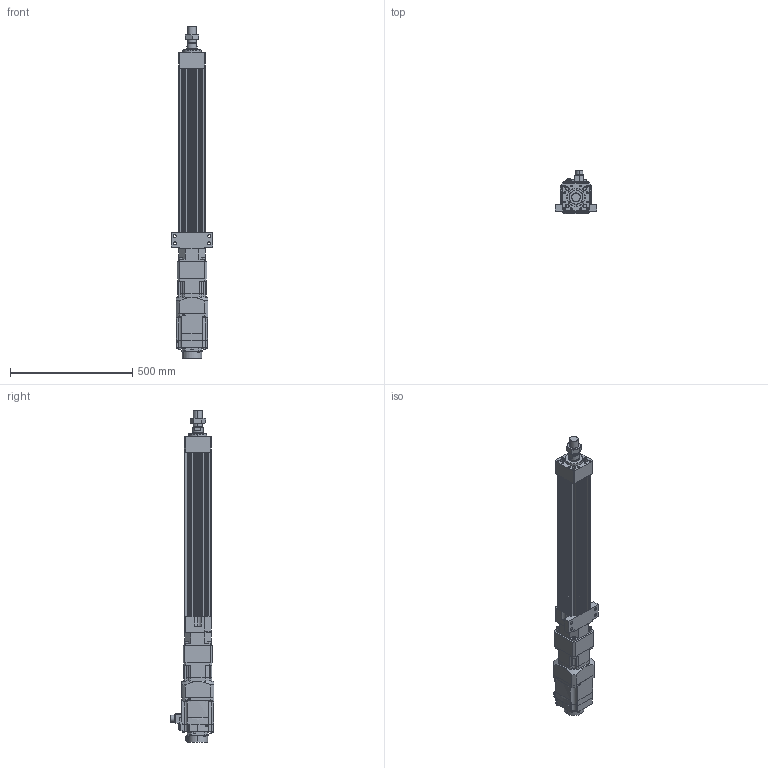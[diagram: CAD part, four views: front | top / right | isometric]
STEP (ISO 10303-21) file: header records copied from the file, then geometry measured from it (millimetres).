
FILE_DESCRIPTION (( 'STEP AP203' ), '1' );
FILE_NAME ('HES110NS(HS)-S500-W015G00-M-FFC.STEP', '2026-06-10T06:04:15', ( 'tms' ), ( '' ), 'SwSTEP 2.0', 'SolidWorks 2013', '' );
FILE_SCHEMA (( 'CONFIG_CONTROL_DESIGN' ));
Length unit declared in the file: millimetre
Products named in the file (8): M36X1.5P; HES110-M-ROD-500; HES110-FFC-500; AB1151; HES110NS(HS)-S500-W015G00-M-FFC; HES110-S-G120; AB1152; HG-SR152B
Assembly tree (7 placements, depth 2):
  HES110NS(HS)-S500-W015G00-M-FFC
    HES110-FFC-500
    HES110-M-ROD-500
    M36X1.5P
    HES110-S-G120
    AB1151
    AB1152
    HG-SR152B
Bounding box: 170 x 177.49 x 1356 mm (x, y, z)
Volume: 9068664.6 mm3; surface area: 1220438.8 mm2
Topology: 5 solids, 12 shells, 1233 faces, 3122 edges, 2017 vertices
Faces by surface type: cylinder 570, plane 555, cone 94, bspline 10, torus 4
Entity records: 38913 total; most frequent: CARTESIAN_POINT 7463, DIRECTION 6733, ORIENTED_EDGE 6168, EDGE_CURVE 3094, AXIS2_PLACEMENT_3D 2500, VERTEX_POINT 2017, LINE 1733, VECTOR 1733
